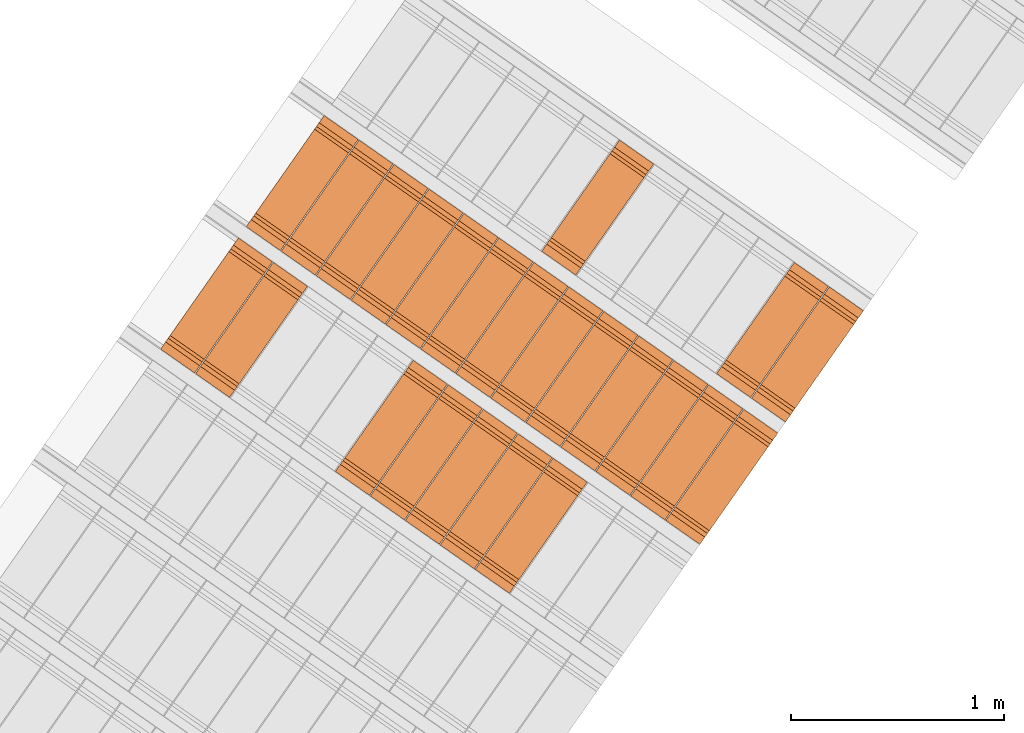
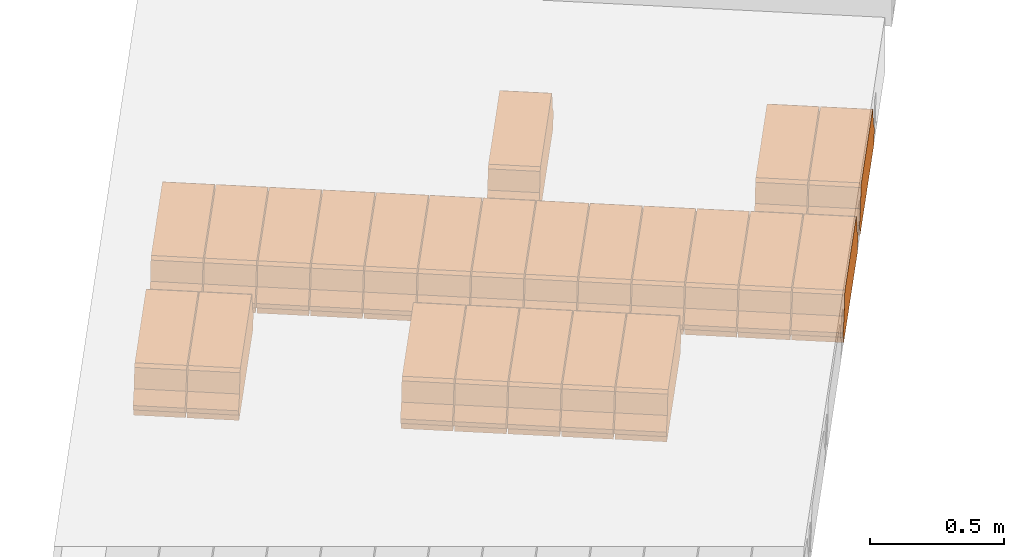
# One storey, part 4 of 8: 23 proxies.
"""IFC2X3 building model written with IfcOpenShell, lengths in metres."""

from ifc_helpers import new_model, entity, si_unit, converted_unit, derived_unit, direction, frame, origin, place, context, subcontext, project, spatial, polyline, outline, extrude, type_object, element, save


model = new_model("IFC2X3")

# Units and contexts
model_context = context("Model", 3, precision=1e-05, world=origin(), true_north=direction((6.123031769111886e-17, 1.0)))
body_context = subcontext(model_context, "Body", "Model", "MODEL_VIEW")
ifc_project = project(units=[si_unit("LENGTHUNIT", "METRE"), si_unit("AREAUNIT", "SQUARE_METRE"), si_unit("VOLUMEUNIT", "CUBIC_METRE"), converted_unit("PLANEANGLEUNIT", "DEGREE", entity("IfcPlaneAngleMeasure", 0.017453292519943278), si_unit("PLANEANGLEUNIT", "RADIAN"), dimensions=[0, 0, 0, 0, 0, 0, 0]), si_unit("MASSUNIT", "GRAM", prefix="KILO"), derived_unit("MASSDENSITYUNIT", [(si_unit("MASSUNIT", "GRAM", prefix="KILO"), 1), (si_unit("LENGTHUNIT", "METRE"), -3)]), derived_unit("IONCONCENTRATIONUNIT", [(si_unit("MASSUNIT", "GRAM", prefix="KILO"), 1), (si_unit("LENGTHUNIT", "METRE"), -3)]), derived_unit("MOMENTOFINERTIAUNIT", [(si_unit("LENGTHUNIT", "METRE"), 4)]), si_unit("TIMEUNIT", "SECOND"), si_unit("FREQUENCYUNIT", "HERTZ"), si_unit("THERMODYNAMICTEMPERATUREUNIT", "DEGREE_CELSIUS"), derived_unit("THERMALTRANSMITTANCEUNIT", [(si_unit("MASSUNIT", "GRAM", prefix="KILO"), 1), (si_unit("THERMODYNAMICTEMPERATUREUNIT", "KELVIN"), -1), (si_unit("TIMEUNIT", "SECOND"), -3)]), derived_unit("THERMALCONDUCTANCEUNIT", [(si_unit("MASSUNIT", "GRAM", prefix="KILO"), 1), (si_unit("THERMODYNAMICTEMPERATUREUNIT", "KELVIN"), -1), (si_unit("TIMEUNIT", "SECOND"), -3), (si_unit("LENGTHUNIT", "METRE"), 1)]), derived_unit("VOLUMETRICFLOWRATEUNIT", [(si_unit("LENGTHUNIT", "METRE", prefix="DECI"), 3), (si_unit("TIMEUNIT", "SECOND"), -1)]), derived_unit("MASSFLOWRATEUNIT", [(si_unit("MASSUNIT", "GRAM", prefix="KILO"), 1), (si_unit("TIMEUNIT", "SECOND"), -1)]), derived_unit("ROTATIONALFREQUENCYUNIT", [(si_unit("TIMEUNIT", "SECOND"), -1)]), si_unit("ELECTRICCURRENTUNIT", "AMPERE"), si_unit("ELECTRICVOLTAGEUNIT", "VOLT"), si_unit("POWERUNIT", "WATT"), si_unit("FORCEUNIT", "NEWTON", prefix="KILO"), si_unit("ILLUMINANCEUNIT", "LUX"), si_unit("LUMINOUSFLUXUNIT", "LUMEN"), si_unit("LUMINOUSINTENSITYUNIT", "CANDELA"), si_unit("ENERGYUNIT", "JOULE"), derived_unit("USERDEFINED", [(si_unit("MASSUNIT", "GRAM", prefix="KILO"), -1), (si_unit("LENGTHUNIT", "METRE"), -2), (si_unit("TIMEUNIT", "SECOND"), 3), (si_unit("LUMINOUSFLUXUNIT", "LUMEN"), 1)]), derived_unit("USERDEFINED", [(si_unit("MASSUNIT", "GRAM", prefix="KILO"), 1), (si_unit("TIMEUNIT", "SECOND"), -3), (si_unit("LENGTHUNIT", "METRE"), 3), (si_unit("ELECTRICCURRENTUNIT", "AMPERE"), -2)]), derived_unit("SOUNDPOWERUNIT", [(si_unit("MASSUNIT", "GRAM", prefix="KILO"), 1), (si_unit("TIMEUNIT", "SECOND"), -3), (si_unit("LENGTHUNIT", "METRE"), 2)]), derived_unit("SOUNDPRESSUREUNIT", [(si_unit("MASSUNIT", "GRAM", prefix="KILO"), 1), (si_unit("LENGTHUNIT", "METRE"), -1), (si_unit("TIMEUNIT", "SECOND"), -2)]), derived_unit("LINEARVELOCITYUNIT", [(si_unit("LENGTHUNIT", "METRE"), 1), (si_unit("TIMEUNIT", "SECOND"), -1)]), si_unit("PRESSUREUNIT", "PASCAL"), derived_unit("USERDEFINED", [(si_unit("MASSUNIT", "GRAM", prefix="KILO"), 1), (si_unit("LENGTHUNIT", "METRE"), -2), (si_unit("TIMEUNIT", "SECOND"), -2)]), derived_unit("LINEARFORCEUNIT", [(si_unit("MASSUNIT", "GRAM", prefix="KILO"), 1), (si_unit("TIMEUNIT", "SECOND"), -2)]), derived_unit("PLANARFORCEUNIT", [(si_unit("MASSUNIT", "GRAM", prefix="KILO"), 1), (si_unit("LENGTHUNIT", "METRE"), -1), (si_unit("TIMEUNIT", "SECOND"), -2)]), derived_unit("SPECIFICHEATCAPACITYUNIT", [(si_unit("THERMODYNAMICTEMPERATUREUNIT", "KELVIN"), -1), (si_unit("LENGTHUNIT", "METRE"), 2), (si_unit("TIMEUNIT", "SECOND"), -2)]), derived_unit("HEATFLUXDENSITYUNIT", [(si_unit("MASSUNIT", "GRAM", prefix="KILO"), 1), (si_unit("TIMEUNIT", "SECOND"), -3)]), derived_unit("HEATINGVALUEUNIT", [(si_unit("LENGTHUNIT", "METRE"), 2), (si_unit("TIMEUNIT", "SECOND"), -2)]), derived_unit("VAPORPERMEABILITYUNIT", [(si_unit("LENGTHUNIT", "METRE"), -1), (si_unit("TIMEUNIT", "SECOND"), 1)]), derived_unit("DYNAMICVISCOSITYUNIT", [(si_unit("MASSUNIT", "GRAM", prefix="KILO"), 1), (si_unit("TIMEUNIT", "SECOND"), -1), (si_unit("LENGTHUNIT", "METRE"), -1)]), derived_unit("THERMALEXPANSIONCOEFFICIENTUNIT", [(si_unit("THERMODYNAMICTEMPERATUREUNIT", "KELVIN"), -1)]), derived_unit("MODULUSOFELASTICITYUNIT", [(si_unit("MASSUNIT", "GRAM", prefix="KILO"), 1), (si_unit("LENGTHUNIT", "METRE"), -1), (si_unit("TIMEUNIT", "SECOND"), -2)]), derived_unit("ISOTHERMALMOISTURECAPACITYUNIT", [(si_unit("MASSUNIT", "GRAM", prefix="KILO"), -1), (si_unit("LENGTHUNIT", "METRE"), 3)]), derived_unit("MOISTUREDIFFUSIVITYUNIT", [(si_unit("TIMEUNIT", "SECOND"), -1), (si_unit("LENGTHUNIT", "METRE"), 2)]), derived_unit("MASSPERLENGTHUNIT", [(si_unit("MASSUNIT", "GRAM", prefix="KILO"), 1), (si_unit("LENGTHUNIT", "METRE"), -1)]), derived_unit("THERMALRESISTANCEUNIT", [(si_unit("MASSUNIT", "GRAM", prefix="KILO"), -1), (si_unit("TIMEUNIT", "SECOND"), 3), (si_unit("THERMODYNAMICTEMPERATUREUNIT", "KELVIN"), 1)]), derived_unit("ACCELERATIONUNIT", [(si_unit("LENGTHUNIT", "METRE"), 1), (si_unit("TIMEUNIT", "SECOND"), -2)]), derived_unit("ANGULARVELOCITYUNIT", [(si_unit("TIMEUNIT", "SECOND"), -1), (si_unit("PLANEANGLEUNIT", "RADIAN"), 1)]), derived_unit("LINEARSTIFFNESSUNIT", [(si_unit("MASSUNIT", "GRAM", prefix="KILO"), 1), (si_unit("TIMEUNIT", "SECOND"), -2)]), derived_unit("WARPINGCONSTANTUNIT", [(si_unit("LENGTHUNIT", "METRE"), 6)]), derived_unit("LINEARMOMENTUNIT", [(si_unit("MASSUNIT", "GRAM", prefix="KILO"), 1), (si_unit("LENGTHUNIT", "METRE"), 1), (si_unit("TIMEUNIT", "SECOND"), -2)]), derived_unit("TORQUEUNIT", [(si_unit("MASSUNIT", "GRAM", prefix="KILO"), 1), (si_unit("LENGTHUNIT", "METRE"), 2), (si_unit("TIMEUNIT", "SECOND"), -2)])], contexts=[model_context])

# Site, building, storey
site_placement = place(None, origin())
site = spatial("IfcSite", under=ifc_project, at=site_placement, Name="Default", CompositionType="ELEMENT")
building_placement = place(site_placement, origin())
building = spatial("IfcBuilding", under=site, at=building_placement, CompositionType="ELEMENT")
storey_placement = place(building_placement, frame((0.0, 0.0, 93.64)))
storey = spatial("IfcBuildingStorey", under=building, at=storey_placement, Name="Depósito_", CompositionType="ELEMENT", Elevation=93.64)

# Proxies
building_element_proxy_type_1 = type_object("IfcBuildingElementProxyType", Name="Bovedilla 4-4 (Paño 1)", PredefinedType="USERDEFINED")
proxy_1_placement = place(storey_placement, origin())
element("IfcBuildingElementProxy", 1, at=proxy_1_placement, inside=storey, type_object=building_element_proxy_type_1, Name="Bovedilla 4-4 (Paño 1)", ObjectType="FORM", context=body_context, shape_type="SweptSolid", body=[
    extrude(outline(polyline([(0.05816607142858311, -0.295), (0.08997232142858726, -0.295), (0.08997232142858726, 0.295), (0.05816607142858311, 0.295), (0.049972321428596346, 0.3180000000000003), (0.029972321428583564, 0.3180000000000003), (-0.018027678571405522, 0.27699999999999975), (-0.10002767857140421, 0.2559999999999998), (-0.11002767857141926, 0.2399999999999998), (-0.11002767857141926, -0.2399999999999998), (-0.10002767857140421, -0.2559999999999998), (-0.018027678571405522, -0.27699999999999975), (0.029972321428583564, -0.3180000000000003), (0.049972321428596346, -0.3180000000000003), (0.05816607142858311, -0.295)])), frame((1.9767630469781, 3.67142769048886, 2.1381660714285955), z_axis=(0.8191520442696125, -0.5735764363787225, 0.0), x_axis=(0.0, 0.0, -1.0)), (0.0, 0.0, 1.0), 0.19500000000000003),
])
building_element_proxy_type_2 = type_object("IfcBuildingElementProxyType", Name="Bovedilla 4-5 (Paño 1)", PredefinedType="USERDEFINED")
proxy_2_placement = place(storey_placement, origin())
element("IfcBuildingElementProxy", 2, at=proxy_2_placement, inside=storey, type_object=building_element_proxy_type_2, Name="Bovedilla 4-5 (Paño 1)", ObjectType="FORM", context=body_context, shape_type="SweptSolid", body=[
    extrude(outline(polyline([(0.05816607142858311, -0.295), (0.08997232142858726, -0.295), (0.08997232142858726, 0.295), (0.05816607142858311, 0.295), (0.049972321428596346, 0.3180000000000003), (0.029972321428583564, 0.3180000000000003), (-0.018027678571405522, 0.27699999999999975), (-0.10002767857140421, 0.2559999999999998), (-0.11002767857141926, 0.2399999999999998), (-0.11002767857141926, -0.2399999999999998), (-0.10002767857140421, -0.2559999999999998), (-0.018027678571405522, -0.27699999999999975), (0.029972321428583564, -0.3180000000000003), (0.049972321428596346, -0.3180000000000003), (0.05816607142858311, -0.295)])), frame((1.8129326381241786, 3.786142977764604, 2.1381660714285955), z_axis=(0.8191520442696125, -0.5735764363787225, 0.0), x_axis=(0.0, 0.0, -1.0)), (0.0, 0.0, 1.0), 0.19500000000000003),
])
building_element_proxy_type_3 = type_object("IfcBuildingElementProxyType", Name="Bovedilla 4-6 (Paño 1)", PredefinedType="USERDEFINED")
proxy_3_placement = place(storey_placement, origin())
element("IfcBuildingElementProxy", 3, at=proxy_3_placement, inside=storey, type_object=building_element_proxy_type_3, Name="Bovedilla 4-6 (Paño 1)", ObjectType="FORM", context=body_context, shape_type="SweptSolid", body=[
    extrude(outline(polyline([(0.05816607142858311, -0.295), (0.08997232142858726, -0.295), (0.08997232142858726, 0.295), (0.05816607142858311, 0.295), (0.049972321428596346, 0.3180000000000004), (0.029972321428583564, 0.3180000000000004), (-0.018027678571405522, 0.2769999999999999), (-0.10002767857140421, 0.2559999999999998), (-0.11002767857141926, 0.2399999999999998), (-0.11002767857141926, -0.2399999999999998), (-0.10002767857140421, -0.2559999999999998), (-0.018027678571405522, -0.27699999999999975), (0.029972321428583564, -0.3180000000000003), (0.049972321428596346, -0.3180000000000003), (0.05816607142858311, -0.295)])), frame((1.6491022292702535, 3.9008582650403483, 2.1381660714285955), z_axis=(0.8191520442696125, -0.5735764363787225, 0.0), x_axis=(0.0, 0.0, -1.0)), (0.0, 0.0, 1.0), 0.19500000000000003),
])
building_element_proxy_type_4 = type_object("IfcBuildingElementProxyType", Name="Bovedilla 4-7 (Paño 1)", PredefinedType="USERDEFINED")
proxy_4_placement = place(storey_placement, origin())
element("IfcBuildingElementProxy", 4, at=proxy_4_placement, inside=storey, type_object=building_element_proxy_type_4, Name="Bovedilla 4-7 (Paño 1)", ObjectType="FORM", context=body_context, shape_type="SweptSolid", body=[
    extrude(outline(polyline([(0.05816607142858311, -0.295), (0.08997232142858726, -0.295), (0.08997232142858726, 0.295), (0.05816607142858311, 0.295), (0.049972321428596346, 0.3180000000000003), (0.029972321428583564, 0.3180000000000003), (-0.018027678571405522, 0.27699999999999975), (-0.10002767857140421, 0.2559999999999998), (-0.11002767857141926, 0.2399999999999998), (-0.11002767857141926, -0.2399999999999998), (-0.10002767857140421, -0.2559999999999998), (-0.018027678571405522, -0.27699999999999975), (0.029972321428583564, -0.3180000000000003), (0.049972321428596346, -0.3180000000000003), (0.05816607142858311, -0.295)])), frame((1.4852718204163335, 4.015573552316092, 2.1381660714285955), z_axis=(0.8191520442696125, -0.5735764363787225, 0.0), x_axis=(0.0, 0.0, -1.0)), (0.0, 0.0, 1.0), 0.19500000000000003),
])
building_element_proxy_type_5 = type_object("IfcBuildingElementProxyType", Name="Bovedilla 4-8 (Paño 1)", PredefinedType="USERDEFINED")
proxy_5_placement = place(storey_placement, origin())
element("IfcBuildingElementProxy", 5, at=proxy_5_placement, inside=storey, type_object=building_element_proxy_type_5, Name="Bovedilla 4-8 (Paño 1)", ObjectType="FORM", context=body_context, shape_type="SweptSolid", body=[
    extrude(outline(polyline([(0.05816607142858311, -0.295), (0.08997232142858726, -0.295), (0.08997232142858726, 0.295), (0.05816607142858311, 0.295), (0.049972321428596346, 0.3180000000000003), (0.029972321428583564, 0.3180000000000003), (-0.018027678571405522, 0.27699999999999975), (-0.10002767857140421, 0.2559999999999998), (-0.11002767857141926, 0.2399999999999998), (-0.11002767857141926, -0.2399999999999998), (-0.10002767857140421, -0.2559999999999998), (-0.018027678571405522, -0.2769999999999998), (0.029972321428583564, -0.3180000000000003), (0.049972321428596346, -0.3180000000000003), (0.05816607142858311, -0.295)])), frame((1.3214414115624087, 4.130288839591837, 2.1381660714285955), z_axis=(0.8191520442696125, -0.5735764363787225, 0.0), x_axis=(0.0, 0.0, -1.0)), (0.0, 0.0, 1.0), 0.19500000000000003),
])
building_element_proxy_type_6 = type_object("IfcBuildingElementProxyType", Name="Bovedilla 4-12 (Paño 1)", PredefinedType="USERDEFINED")
proxy_6_placement = place(storey_placement, origin())
element("IfcBuildingElementProxy", 6, at=proxy_6_placement, inside=storey, type_object=building_element_proxy_type_6, Name="Bovedilla 4-12 (Paño 1)", ObjectType="FORM", context=body_context, shape_type="SweptSolid", body=[
    extrude(outline(polyline([(0.05816607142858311, -0.295), (0.08997232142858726, -0.295), (0.08997232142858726, 0.295), (0.05816607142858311, 0.295), (0.049972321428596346, 0.3180000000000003), (0.029972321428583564, 0.3180000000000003), (-0.018027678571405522, 0.2769999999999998), (-0.10002767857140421, 0.2559999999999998), (-0.11002767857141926, 0.2399999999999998), (-0.11002767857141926, -0.2399999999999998), (-0.10002767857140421, -0.2559999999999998), (-0.018027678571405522, -0.2769999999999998), (0.029972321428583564, -0.3180000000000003), (0.049972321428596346, -0.3180000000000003), (0.05816607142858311, -0.295)])), frame((0.6661197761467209, 4.589149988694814, 2.1381660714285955), z_axis=(0.8191520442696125, -0.5735764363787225, 0.0), x_axis=(0.0, 0.0, -1.0)), (0.0, 0.0, 1.0), 0.19500000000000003),
])
building_element_proxy_type_7 = type_object("IfcBuildingElementProxyType", Name="Bovedilla 4-13 (Paño 1)", PredefinedType="USERDEFINED")
proxy_7_placement = place(storey_placement, origin())
element("IfcBuildingElementProxy", 7, at=proxy_7_placement, inside=storey, type_object=building_element_proxy_type_7, Name="Bovedilla 4-13 (Paño 1)", ObjectType="FORM", context=body_context, shape_type="SweptSolid", body=[
    extrude(outline(polyline([(0.05816607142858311, -0.29499999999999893), (0.08997232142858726, -0.29499999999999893), (0.08997232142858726, 0.2950000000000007), (0.05816607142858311, 0.2950000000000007), (0.049972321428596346, 0.3180000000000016), (0.029972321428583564, 0.3180000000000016), (-0.018027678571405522, 0.2770000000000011), (-0.10002767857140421, 0.2560000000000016), (-0.11002767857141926, 0.24000000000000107), (-0.11002767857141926, -0.23999999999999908), (-0.10002767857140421, -0.25599999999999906), (-0.018027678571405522, -0.2769999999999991), (0.029972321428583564, -0.3179999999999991), (0.049972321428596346, -0.3179999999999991), (0.05816607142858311, -0.29499999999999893)])), frame((0.502289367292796, 4.703865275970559, 2.1381660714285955), z_axis=(0.8191520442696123, -0.5735764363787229, 0.0), x_axis=(0.0, 0.0, -1.0)), (0.0, 0.0, 1.0), 0.19499999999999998),
])
building_element_proxy_type_8 = type_object("IfcBuildingElementProxyType", Name="Bovedilla 5-1 (Paño 1)", PredefinedType="USERDEFINED")
proxy_8_placement = place(storey_placement, origin())
element("IfcBuildingElementProxy", 8, at=proxy_8_placement, inside=storey, type_object=building_element_proxy_type_8, Name="Bovedilla 5-1 (Paño 1)", ObjectType="FORM", context=body_context, shape_type="SweptSolid", body=[
    extrude(outline(polyline([(0.05816607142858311, -0.2950000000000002), (0.08997232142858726, -0.2950000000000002), (0.08997232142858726, 0.2949999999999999), (0.05816607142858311, 0.2949999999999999), (0.049972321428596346, 0.3180000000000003), (0.029972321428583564, 0.3180000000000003), (-0.018027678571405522, 0.27699999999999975), (-0.10002767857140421, 0.25599999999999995), (-0.11002767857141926, 0.2399999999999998), (-0.11002767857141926, -0.2399999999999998), (-0.10002767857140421, -0.25599999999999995), (-0.018027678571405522, -0.27699999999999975), (0.029972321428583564, -0.3180000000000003), (0.049972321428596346, -0.3180000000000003), (0.05816607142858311, -0.2950000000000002)])), frame((2.8697577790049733, 3.9006882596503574, 2.1381660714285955), z_axis=(0.8191520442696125, -0.5735764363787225, 0.0), x_axis=(0.0, 0.0, -1.0)), (0.0, 0.0, 1.0), 0.19500000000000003),
])
building_element_proxy_type_9 = type_object("IfcBuildingElementProxyType", Name="Bovedilla 5-2 (Paño 1)", PredefinedType="USERDEFINED")
proxy_9_placement = place(storey_placement, origin())
element("IfcBuildingElementProxy", 9, at=proxy_9_placement, inside=storey, type_object=building_element_proxy_type_9, Name="Bovedilla 5-2 (Paño 1)", ObjectType="FORM", context=body_context, shape_type="SweptSolid", body=[
    extrude(outline(polyline([(0.05816607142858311, -0.2949999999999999), (0.08997232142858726, -0.2949999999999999), (0.08997232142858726, 0.2950000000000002), (0.05816607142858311, 0.2950000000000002), (0.049972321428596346, 0.3180000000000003), (0.029972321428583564, 0.3180000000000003), (-0.018027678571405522, 0.27699999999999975), (-0.10002767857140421, 0.2560000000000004), (-0.11002767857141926, 0.24000000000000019), (-0.11002767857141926, -0.2399999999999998), (-0.10002767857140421, -0.2559999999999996), (-0.018027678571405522, -0.2769999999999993), (0.029972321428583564, -0.3179999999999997), (0.049972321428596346, -0.3179999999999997), (0.05816607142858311, -0.2949999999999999)])), frame((2.7059273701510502, 4.015403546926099, 2.1381660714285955), z_axis=(0.8191520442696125, -0.5735764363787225, 0.0), x_axis=(0.0, 0.0, -1.0)), (0.0, 0.0, 1.0), 0.19500000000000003),
])
building_element_proxy_type_10 = type_object("IfcBuildingElementProxyType", Name="Bovedilla 5-3 (Paño 1)", PredefinedType="USERDEFINED")
proxy_10_placement = place(storey_placement, origin())
element("IfcBuildingElementProxy", 10, at=proxy_10_placement, inside=storey, type_object=building_element_proxy_type_10, Name="Bovedilla 5-3 (Paño 1)", ObjectType="FORM", context=body_context, shape_type="SweptSolid", body=[
    extrude(outline(polyline([(0.05816607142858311, -0.2950000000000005), (0.08997232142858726, -0.2950000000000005), (0.08997232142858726, 0.2949999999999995), (0.05816607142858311, 0.2949999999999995), (0.049972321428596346, 0.3180000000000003), (0.029972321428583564, 0.3180000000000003), (-0.018027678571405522, 0.27699999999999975), (-0.10002767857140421, 0.2559999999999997), (-0.11002767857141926, 0.2399999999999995), (-0.11002767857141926, -0.24000000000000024), (-0.10002767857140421, -0.2560000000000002), (-0.018027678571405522, -0.27700000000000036), (0.029972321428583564, -0.31800000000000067), (0.049972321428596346, -0.31800000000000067), (0.05816607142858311, -0.2950000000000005)])), frame((2.542096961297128, 4.130118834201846, 2.1381660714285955), z_axis=(0.8191520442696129, -0.5735764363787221, 0.0), x_axis=(0.0, 0.0, -1.0)), (0.0, 0.0, 1.0), 0.19499999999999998),
])
building_element_proxy_type_11 = type_object("IfcBuildingElementProxyType", Name="Bovedilla 5-4 (Paño 1)", PredefinedType="USERDEFINED")
proxy_11_placement = place(storey_placement, origin())
element("IfcBuildingElementProxy", 11, at=proxy_11_placement, inside=storey, type_object=building_element_proxy_type_11, Name="Bovedilla 5-4 (Paño 1)", ObjectType="FORM", context=body_context, shape_type="SweptSolid", body=[
    extrude(outline(polyline([(0.05816607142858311, -0.29499999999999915), (0.08997232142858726, -0.29499999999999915), (0.08997232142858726, 0.29500000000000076), (0.05816607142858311, 0.29500000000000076), (0.049972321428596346, 0.3180000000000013), (0.029972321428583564, 0.3180000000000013), (-0.018027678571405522, 0.2770000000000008), (-0.10002767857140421, 0.256000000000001), (-0.11002767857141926, 0.2400000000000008), (-0.11002767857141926, -0.23999999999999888), (-0.10002767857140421, -0.25599999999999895), (-0.018027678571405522, -0.27699999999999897), (0.029972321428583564, -0.31799999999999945), (0.049972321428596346, -0.31799999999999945), (0.05816607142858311, -0.29499999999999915)])), frame((2.3782665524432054, 4.244834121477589, 2.1381660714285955), z_axis=(0.8191520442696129, -0.5735764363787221, 0.0), x_axis=(0.0, 0.0, -1.0)), (0.0, 0.0, 1.0), 0.19499999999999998),
])
building_element_proxy_type_12 = type_object("IfcBuildingElementProxyType", Name="Bovedilla 5-5 (Paño 1)", PredefinedType="USERDEFINED")
proxy_12_placement = place(storey_placement, origin())
element("IfcBuildingElementProxy", 12, at=proxy_12_placement, inside=storey, type_object=building_element_proxy_type_12, Name="Bovedilla 5-5 (Paño 1)", ObjectType="FORM", context=body_context, shape_type="SweptSolid", body=[
    extrude(outline(polyline([(0.05816607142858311, -0.295), (0.08997232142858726, -0.295), (0.08997232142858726, 0.295), (0.05816607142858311, 0.295), (0.049972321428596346, 0.3180000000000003), (0.029972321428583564, 0.3180000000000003), (-0.018027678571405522, 0.27699999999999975), (-0.10002767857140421, 0.2559999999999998), (-0.11002767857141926, 0.2399999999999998), (-0.11002767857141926, -0.2399999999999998), (-0.10002767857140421, -0.2559999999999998), (-0.018027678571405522, -0.27699999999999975), (0.029972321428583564, -0.3180000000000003), (0.049972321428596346, -0.3180000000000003), (0.05816607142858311, -0.295)])), frame((2.2144361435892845, 4.359549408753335, 2.1381660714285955), z_axis=(0.8191520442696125, -0.5735764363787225, 0.0), x_axis=(0.0, 0.0, -1.0)), (0.0, 0.0, 1.0), 0.19500000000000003),
])
building_element_proxy_type_13 = type_object("IfcBuildingElementProxyType", Name="Bovedilla 5-6 (Paño 1)", PredefinedType="USERDEFINED")
proxy_13_placement = place(storey_placement, origin())
element("IfcBuildingElementProxy", 13, at=proxy_13_placement, inside=storey, type_object=building_element_proxy_type_13, Name="Bovedilla 5-6 (Paño 1)", ObjectType="FORM", context=body_context, shape_type="SweptSolid", body=[
    extrude(outline(polyline([(0.05816607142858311, -0.2949999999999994), (0.08997232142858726, -0.2949999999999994), (0.08997232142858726, 0.2950000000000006), (0.05816607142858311, 0.2950000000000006), (0.049972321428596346, 0.3180000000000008), (0.029972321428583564, 0.3180000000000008), (-0.018027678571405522, 0.2770000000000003), (-0.10002767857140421, 0.2560000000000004), (-0.11002767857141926, 0.24000000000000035), (-0.11002767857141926, -0.2399999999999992), (-0.10002767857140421, -0.2559999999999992), (-0.018027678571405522, -0.2769999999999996), (0.029972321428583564, -0.31799999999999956), (0.049972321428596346, -0.31799999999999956), (0.05816607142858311, -0.2949999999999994)])), frame((2.0506057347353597, 4.474264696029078, 2.1381660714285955), z_axis=(0.8191520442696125, -0.5735764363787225, 0.0), x_axis=(0.0, 0.0, -1.0)), (0.0, 0.0, 1.0), 0.19500000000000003),
])
building_element_proxy_type_14 = type_object("IfcBuildingElementProxyType", Name="Bovedilla 5-7 (Paño 1)", PredefinedType="USERDEFINED")
proxy_14_placement = place(storey_placement, origin())
element("IfcBuildingElementProxy", 14, at=proxy_14_placement, inside=storey, type_object=building_element_proxy_type_14, Name="Bovedilla 5-7 (Paño 1)", ObjectType="FORM", context=body_context, shape_type="SweptSolid", body=[
    extrude(outline(polyline([(0.05816607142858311, -0.295), (0.08997232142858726, -0.295), (0.08997232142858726, 0.295), (0.05816607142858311, 0.295), (0.049972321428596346, 0.3180000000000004), (0.029972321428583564, 0.3180000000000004), (-0.018027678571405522, 0.2769999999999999), (-0.10002767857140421, 0.2559999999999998), (-0.11002767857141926, 0.2399999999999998), (-0.11002767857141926, -0.2399999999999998), (-0.10002767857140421, -0.2559999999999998), (-0.018027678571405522, -0.27699999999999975), (0.029972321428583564, -0.3180000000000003), (0.049972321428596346, -0.3180000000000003), (0.05816607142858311, -0.295)])), frame((1.886775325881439, 4.588979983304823, 2.1381660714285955), z_axis=(0.8191520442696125, -0.5735764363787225, 0.0), x_axis=(0.0, 0.0, -1.0)), (0.0, 0.0, 1.0), 0.19500000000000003),
])
building_element_proxy_type_15 = type_object("IfcBuildingElementProxyType", Name="Bovedilla 5-8 (Paño 1)", PredefinedType="USERDEFINED")
proxy_15_placement = place(storey_placement, origin())
element("IfcBuildingElementProxy", 15, at=proxy_15_placement, inside=storey, type_object=building_element_proxy_type_15, Name="Bovedilla 5-8 (Paño 1)", ObjectType="FORM", context=body_context, shape_type="SweptSolid", body=[
    extrude(outline(polyline([(0.05816607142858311, -0.294999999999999), (0.08997232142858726, -0.294999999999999), (0.08997232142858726, 0.2950000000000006), (0.05816607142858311, 0.2950000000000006), (0.049972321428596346, 0.3180000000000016), (0.029972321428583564, 0.3180000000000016), (-0.018027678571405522, 0.27700000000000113), (-0.10002767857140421, 0.2560000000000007), (-0.11002767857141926, 0.24000000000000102), (-0.11002767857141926, -0.23999999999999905), (-0.10002767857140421, -0.25599999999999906), (-0.018027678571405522, -0.27699999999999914), (0.029972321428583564, -0.31799999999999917), (0.049972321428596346, -0.31799999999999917), (0.05816607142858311, -0.294999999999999)])), frame((1.7229449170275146, 4.703695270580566, 2.1381660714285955), z_axis=(0.8191520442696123, -0.5735764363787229, 0.0), x_axis=(0.0, 0.0, -1.0)), (0.0, 0.0, 1.0), 0.19499999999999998),
])
building_element_proxy_type_16 = type_object("IfcBuildingElementProxyType", Name="Bovedilla 5-9 (Paño 1)", PredefinedType="USERDEFINED")
proxy_16_placement = place(storey_placement, origin())
element("IfcBuildingElementProxy", 16, at=proxy_16_placement, inside=storey, type_object=building_element_proxy_type_16, Name="Bovedilla 5-9 (Paño 1)", ObjectType="FORM", context=body_context, shape_type="SweptSolid", body=[
    extrude(outline(polyline([(0.05816607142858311, -0.29499999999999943), (0.08997232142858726, -0.29499999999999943), (0.08997232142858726, 0.2950000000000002), (0.05816607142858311, 0.2950000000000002), (0.049972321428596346, 0.318000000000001), (0.029972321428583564, 0.318000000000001), (-0.018027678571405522, 0.27700000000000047), (-0.10002767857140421, 0.256000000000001), (-0.11002767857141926, 0.2400000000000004), (-0.11002767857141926, -0.2399999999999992), (-0.10002767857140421, -0.2559999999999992), (-0.018027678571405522, -0.2769999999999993), (0.029972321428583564, -0.31799999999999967), (0.049972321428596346, -0.31799999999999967), (0.05816607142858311, -0.29499999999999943)])), frame((1.559114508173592, 4.818410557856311, 2.1381660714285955), z_axis=(0.8191520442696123, -0.5735764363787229, 0.0), x_axis=(0.0, 0.0, -1.0)), (0.0, 0.0, 1.0), 0.19499999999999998),
])
building_element_proxy_type_17 = type_object("IfcBuildingElementProxyType", Name="Bovedilla 5-10 (Paño 1)", PredefinedType="USERDEFINED")
proxy_17_placement = place(storey_placement, origin())
element("IfcBuildingElementProxy", 17, at=proxy_17_placement, inside=storey, type_object=building_element_proxy_type_17, Name="Bovedilla 5-10 (Paño 1)", ObjectType="FORM", context=body_context, shape_type="SweptSolid", body=[
    extrude(outline(polyline([(0.05816607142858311, -0.29499999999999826), (0.08997232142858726, -0.29499999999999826), (0.08997232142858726, 0.295000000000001), (0.05816607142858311, 0.295000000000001), (0.049972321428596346, 0.3180000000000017), (0.029972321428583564, 0.3180000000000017), (-0.018027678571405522, 0.2770000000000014), (-0.10002767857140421, 0.2560000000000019), (-0.11002767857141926, 0.24000000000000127), (-0.11002767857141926, -0.23999999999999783), (-0.10002767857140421, -0.25599999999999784), (-0.018027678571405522, -0.27699999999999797), (0.029972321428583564, -0.31799999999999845), (0.049972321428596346, -0.31799999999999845), (0.05816607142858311, -0.29499999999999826)])), frame((1.3952840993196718, 4.933125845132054, 2.1381660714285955), z_axis=(0.8191520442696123, -0.5735764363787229, 0.0), x_axis=(0.0, 0.0, -1.0)), (0.0, 0.0, 1.0), 0.19499999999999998),
])
building_element_proxy_type_18 = type_object("IfcBuildingElementProxyType", Name="Bovedilla 5-11 (Paño 1)", PredefinedType="USERDEFINED")
proxy_18_placement = place(storey_placement, origin())
element("IfcBuildingElementProxy", 18, at=proxy_18_placement, inside=storey, type_object=building_element_proxy_type_18, Name="Bovedilla 5-11 (Paño 1)", ObjectType="FORM", context=body_context, shape_type="SweptSolid", body=[
    extrude(outline(polyline([(0.05816607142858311, -0.2950000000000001), (0.08997232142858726, -0.2950000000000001), (0.08997232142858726, 0.2949999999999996), (0.05816607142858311, 0.2949999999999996), (0.049972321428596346, 0.3180000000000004), (0.029972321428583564, 0.3180000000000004), (-0.018027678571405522, 0.2769999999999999), (-0.10002767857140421, 0.2560000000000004), (-0.11002767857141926, 0.2399999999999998), (-0.11002767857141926, -0.23999999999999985), (-0.10002767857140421, -0.2559999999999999), (-0.018027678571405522, -0.2769999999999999), (0.029972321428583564, -0.31800000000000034), (0.049972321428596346, -0.31800000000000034), (0.05816607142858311, -0.2950000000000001)])), frame((1.2314536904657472, 5.0478411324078, 2.1381660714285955), z_axis=(0.8191520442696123, -0.5735764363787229, 0.0), x_axis=(0.0, 0.0, -1.0)), (0.0, 0.0, 1.0), 0.19499999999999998),
])
building_element_proxy_type_19 = type_object("IfcBuildingElementProxyType", Name="Bovedilla 5-12 (Paño 1)", PredefinedType="USERDEFINED")
proxy_19_placement = place(storey_placement, origin())
element("IfcBuildingElementProxy", 19, at=proxy_19_placement, inside=storey, type_object=building_element_proxy_type_19, Name="Bovedilla 5-12 (Paño 1)", ObjectType="FORM", context=body_context, shape_type="SweptSolid", body=[
    extrude(outline(polyline([(0.05816607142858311, -0.29499999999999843), (0.08997232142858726, -0.29499999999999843), (0.08997232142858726, 0.2950000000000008), (0.05816607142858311, 0.2950000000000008), (0.049972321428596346, 0.3180000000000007), (0.029972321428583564, 0.3180000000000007), (-0.018027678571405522, 0.27700000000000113), (-0.10002767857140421, 0.25600000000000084), (-0.11002767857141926, 0.24000000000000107), (-0.11002767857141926, -0.23999999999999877), (-0.10002767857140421, -0.2559999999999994), (-0.018027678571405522, -0.2769999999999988), (0.029972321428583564, -0.31799999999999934), (0.049972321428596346, -0.31799999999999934), (0.05816607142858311, -0.29499999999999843)])), frame((1.0676232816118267, 5.162556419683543, 2.1381660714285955), z_axis=(0.8191520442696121, -0.5735764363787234, 0.0), x_axis=(0.0, 0.0, -1.0)), (0.0, 0.0, 1.0), 0.19499999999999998),
])
building_element_proxy_type_20 = type_object("IfcBuildingElementProxyType", Name="Bovedilla 5-13 (Paño 1)", PredefinedType="USERDEFINED")
proxy_20_placement = place(storey_placement, origin())
element("IfcBuildingElementProxy", 20, at=proxy_20_placement, inside=storey, type_object=building_element_proxy_type_20, Name="Bovedilla 5-13 (Paño 1)", ObjectType="FORM", context=body_context, shape_type="SweptSolid", body=[
    extrude(outline(polyline([(0.05816607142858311, -0.29499999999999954), (0.08997232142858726, -0.29499999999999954), (0.08997232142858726, 0.29499999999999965), (0.05816607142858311, 0.29499999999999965), (0.049972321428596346, 0.31800000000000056), (0.029972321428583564, 0.31800000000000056), (-0.018027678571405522, 0.277), (-0.10002767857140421, 0.25600000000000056), (-0.11002767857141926, 0.23999999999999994), (-0.11002767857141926, -0.23999999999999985), (-0.10002767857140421, -0.2560000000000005), (-0.018027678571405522, -0.2769999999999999), (0.029972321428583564, -0.3180000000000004), (0.049972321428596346, -0.3180000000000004), (0.05816607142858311, -0.29499999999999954)])), frame((0.9037928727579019, 5.277271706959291, 2.1381660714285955), z_axis=(0.8191520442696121, -0.5735764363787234, 0.0), x_axis=(0.0, 0.0, -1.0)), (0.0, 0.0, 1.0), 0.19499999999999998),
])
building_element_proxy_type_21 = type_object("IfcBuildingElementProxyType", Name="Bovedilla 6-1 (Paño 1)", PredefinedType="USERDEFINED")
proxy_21_placement = place(storey_placement, origin())
element("IfcBuildingElementProxy", 21, at=proxy_21_placement, inside=storey, type_object=building_element_proxy_type_21, Name="Bovedilla 6-1 (Paño 1)", ObjectType="FORM", context=body_context, shape_type="SweptSolid", body=[
    extrude(outline(polyline([(0.05816607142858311, -0.2949999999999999), (0.08997232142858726, -0.2949999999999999), (0.08997232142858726, 0.2950000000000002), (0.05816607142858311, 0.2950000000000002), (0.049972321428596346, 0.318000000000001), (0.029972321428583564, 0.318000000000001), (-0.018027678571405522, 0.27700000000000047), (-0.10002767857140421, 0.2560000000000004), (-0.11002767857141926, 0.24000000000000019), (-0.11002767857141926, -0.23999999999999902), (-0.10002767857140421, -0.2559999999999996), (-0.018027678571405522, -0.2769999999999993), (0.029972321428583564, -0.3179999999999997), (0.049972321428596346, -0.3179999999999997), (0.05816607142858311, -0.2949999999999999)])), frame((3.271261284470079, 4.4740946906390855, 2.1381660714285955), z_axis=(0.8191520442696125, -0.5735764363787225, 0.0), x_axis=(0.0, 0.0, -1.0)), (0.0, 0.0, 1.0), 0.19500000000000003),
])
building_element_proxy_type_22 = type_object("IfcBuildingElementProxyType", Name="Bovedilla 6-2 (Paño 1)", PredefinedType="USERDEFINED")
proxy_22_placement = place(storey_placement, origin())
element("IfcBuildingElementProxy", 22, at=proxy_22_placement, inside=storey, type_object=building_element_proxy_type_22, Name="Bovedilla 6-2 (Paño 1)", ObjectType="FORM", context=body_context, shape_type="SweptSolid", body=[
    extrude(outline(polyline([(0.05816607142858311, -0.29499999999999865), (0.08997232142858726, -0.29499999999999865), (0.08997232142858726, 0.29500000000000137), (0.05816607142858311, 0.29500000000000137), (0.049972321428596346, 0.3180000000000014), (0.029972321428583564, 0.3180000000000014), (-0.018027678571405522, 0.2770000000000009), (-0.10002767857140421, 0.25600000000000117), (-0.11002767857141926, 0.24000000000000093), (-0.11002767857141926, -0.23999999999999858), (-0.10002767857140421, -0.25599999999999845), (-0.018027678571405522, -0.2769999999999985), (0.029972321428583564, -0.31799999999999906), (0.049972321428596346, -0.31799999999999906), (0.05816607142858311, -0.29499999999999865)])), frame((3.107430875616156, 4.588809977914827, 2.1381660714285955), z_axis=(0.8191520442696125, -0.5735764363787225, 0.0), x_axis=(0.0, 0.0, -1.0)), (0.0, 0.0, 1.0), 0.19500000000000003),
])
building_element_proxy_type_23 = type_object("IfcBuildingElementProxyType", Name="Bovedilla 6-7 (Paño 1)", PredefinedType="USERDEFINED")
proxy_23_placement = place(storey_placement, origin())
element("IfcBuildingElementProxy", 23, at=proxy_23_placement, inside=storey, type_object=building_element_proxy_type_23, Name="Bovedilla 6-7 (Paño 1)", ObjectType="FORM", context=body_context, shape_type="SweptSolid", body=[
    extrude(outline(polyline([(0.05816607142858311, -0.2949999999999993), (0.08997232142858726, -0.2949999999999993), (0.08997232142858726, 0.2950000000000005), (0.05816607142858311, 0.2950000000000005), (0.049972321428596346, 0.3180000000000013), (0.029972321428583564, 0.3180000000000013), (-0.018027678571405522, 0.2770000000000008), (-0.10002767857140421, 0.2560000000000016), (-0.11002767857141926, 0.24000000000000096), (-0.11002767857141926, -0.23999999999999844), (-0.10002767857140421, -0.25599999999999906), (-0.018027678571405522, -0.2769999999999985), (0.029972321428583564, -0.31799999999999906), (0.049972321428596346, -0.31799999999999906), (0.05816607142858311, -0.2949999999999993)])), frame((2.2882788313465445, 5.16238641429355, 2.1381660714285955), z_axis=(0.8191520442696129, -0.5735764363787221, 0.0), x_axis=(0.0, 0.0, -1.0)), (0.0, 0.0, 1.0), 0.19499999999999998),
])

save(model, "model.ifc")
